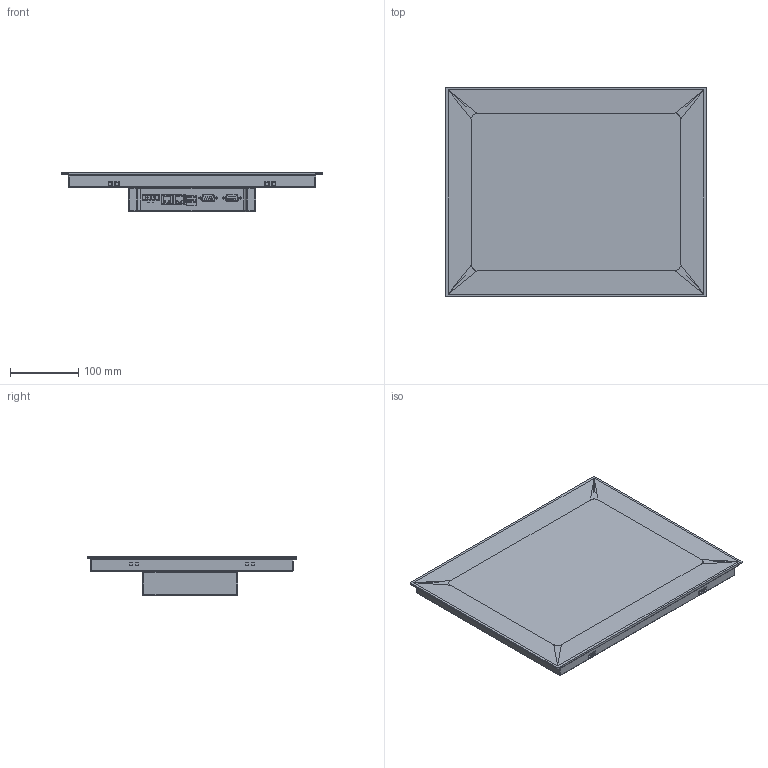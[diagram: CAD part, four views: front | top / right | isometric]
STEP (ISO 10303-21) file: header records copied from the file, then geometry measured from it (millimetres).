
FILE_DESCRIPTION((''),'2;1');
FILE_NAME('CU_TPC-2215','2013-09-13T',('jbuhisan'),(''),'PRO/ENGINEER BY PARAMETRIC TECHNOLOGY CORPORATION, 2011490','PRO/ENGINEER BY PARAMETRIC TECHNOLOGY CORPORATION, 2011490','');
FILE_SCHEMA(('CONFIG_CONTROL_DESIGN'));
Length unit declared in the file: inch
Products named in the file (1): CU_TPC-2215
Bounding box: 383 x 307 x 58.1 mm (x, y, z)
Volume: 3176808.1 mm3; surface area: 328927.8 mm2
Topology: 1 solids, 1 shells, 1438 faces, 3487 edges, 2252 vertices
Faces by surface type: plane 1053, cylinder 167, extrusion 125, bspline 46, torus 32, sphere 15
Entity records: 47952 total; most frequent: CARTESIAN_POINT 14720, ORIENTED_EDGE 6936, DIRECTION 6222, EDGE_CURVE 3468, VECTOR 2900, LINE 2775, VERTEX_POINT 2252, AXIS2_PLACEMENT_3D 1661
